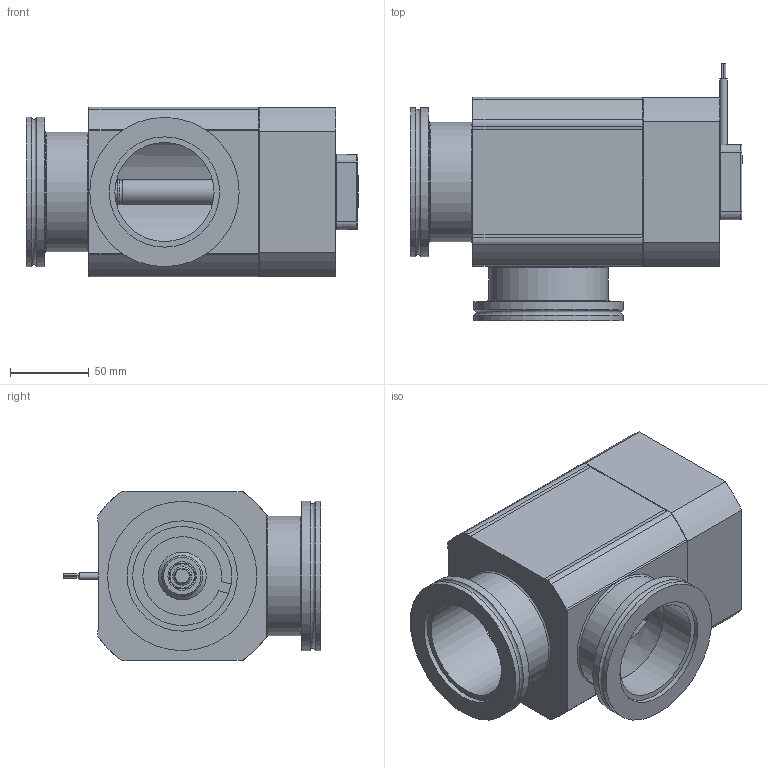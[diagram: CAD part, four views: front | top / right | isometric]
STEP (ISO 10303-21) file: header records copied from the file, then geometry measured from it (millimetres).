
FILE_DESCRIPTION(/* description */ (''),/* implementation_level */ '2;1');
FILE_NAME(/* name */ '1032331335_203.stp',/* time_stamp */ '2012-08-09T09:49:09+02:00',/* author */ (''),/* organization */ (''),/* preprocessor_version */ 'ST-DEVELOPER v11',/* originating_system */ 'SIEMENS PLM Software NX 7.5',/* authorisation */ '');
FILE_SCHEMA (('AP203_CONFIGURATION_CONTROLLED_3D_DESIGN_OF_MECHANICAL_PARTS_AND_ASSEMBLIES_MIM_LF'));
Length unit declared in the file: millimetre
Products named in the file (12): 414761_17957ID; 239888_6.1; 233359; 236204_1.1; 415266; 243267.7; 259415.2; N-6013-443.2; 224796.1; 459840_MODEL; 402922; 469801
Assembly tree (16 placements, depth 3):
  469801
    224796.1  x4
    N-6013-443.2  x2
    259415.2
    243267.7
    415266
    402922
      236204_1.1  x2
      233359
      239888_6.1
    459840_MODEL
      414761_17957ID
Bounding box: 211 x 163.57 x 107.6 mm (x, y, z)
Volume: 959146.1 mm3; surface area: 236112.9 mm2
Topology: 22 solids, 22 shells, 600 faces, 1456 edges, 948 vertices
Faces by surface type: plane 333, cylinder 158, cone 69, torus 23, bspline 17
Full cylindrical faces by diameter (mm): 1.4 x8, 3 x6, 3.1 x1, 3.3 x2, 4 x3, 4.16 x4, 4.2 x8, 4.5 x2, 4.6 x2, 4.7 x2, 5 x8, 5.5 x4, 5.6 x2, 7 x1, 7.4 x1, 7.5 x2, 8 x1, 8.5 x4, 8.566 x1, 9 x1, 10 x4, 10.1 x1, 12 x1, 15.975 x3, 16 x1, 16.5 x2, 18.18 x1, 20.45 x1, 26 x1, 30.5 x1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
Entity records: 16332 total; most frequent: CARTESIAN_POINT 3168, DIRECTION 2448, ORIENTED_EDGE 2166, EDGE_CURVE 1083, AXIS2_PLACEMENT_3D 915, VERTEX_POINT 793, EDGE_LOOP 736, LINE 618
